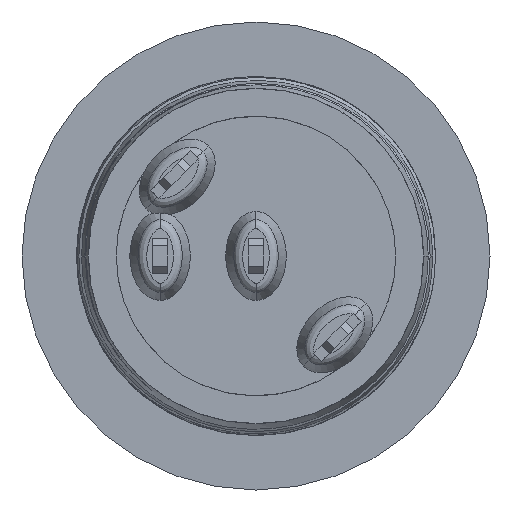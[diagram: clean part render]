
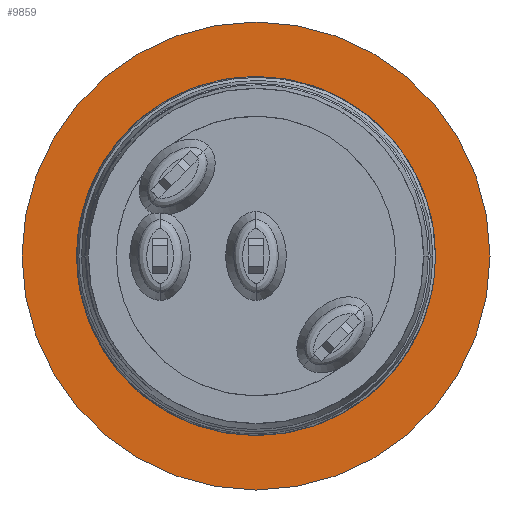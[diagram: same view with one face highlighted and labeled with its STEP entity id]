
A CAD part, front view. The second image highlights one B-rep face of the part: STEP entity #9859.
In plain terms, the highlighted planar face has unit normal (0, -1, 0).
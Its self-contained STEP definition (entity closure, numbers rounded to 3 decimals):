
#5392=CARTESIAN_POINT('',(0.,14.37,0.));
#5393=DIRECTION('',(0.,1.,0.));
#5394=DIRECTION('',(1.,0.,0.));
#5395=AXIS2_PLACEMENT_3D('',#5392,#5393,#5394);
#5397=CARTESIAN_POINT('',(0.,14.37,0.));
#5398=DIRECTION('',(0.,1.,0.));
#5399=DIRECTION('',(-1.,0.,0.));
#5400=AXIS2_PLACEMENT_3D('',#5397,#5398,#5399);
#6458=CARTESIAN_POINT('',(12.391,14.37,0.));
#6459=CARTESIAN_POINT('',(-12.391,14.37,0.));
#6460=VERTEX_POINT('',#6458);
#6461=VERTEX_POINT('',#6459);
#9848=CARTESIAN_POINT('',(0.,14.37,0.));
#9849=DIRECTION('',(0.,1.,0.));
#9850=DIRECTION('',(1.,0.,0.));
#9851=AXIS2_PLACEMENT_3D('',#9848,#9849,#9850);
#9852=PLANE('',#9851);
#9854=ORIENTED_EDGE('',*,*,#9853,.T.);
#9856=ORIENTED_EDGE('',*,*,#9855,.T.);
#9857=EDGE_LOOP('',(#9854,#9856));
#9858=FACE_OUTER_BOUND('',#9857,.F.);
#9859=ADVANCED_FACE('',(#9858),#9852,.F.);
#5396=CIRCLE('',#5395,12.391);
#5401=CIRCLE('',#5400,12.391);
#9853=EDGE_CURVE('',#6460,#6461,#5396,.T.);
#9855=EDGE_CURVE('',#6461,#6460,#5401,.T.);
